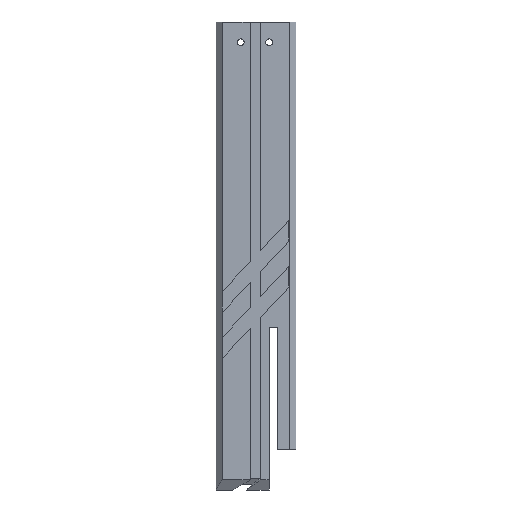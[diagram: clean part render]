
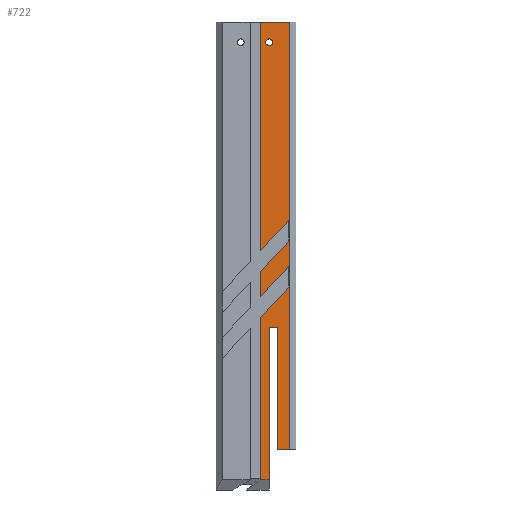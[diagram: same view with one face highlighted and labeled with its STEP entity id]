
A CAD part, top view. The second image highlights one B-rep face of the part: STEP entity #722.
In plain terms, the highlighted planar face has unit normal (0, 0, 1).
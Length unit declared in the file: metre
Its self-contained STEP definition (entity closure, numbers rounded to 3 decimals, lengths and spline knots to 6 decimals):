
#17=CIRCLE('',#778,0.0017);
#83=ORIENTED_EDGE('',*,*,#280,.F.);
#84=ORIENTED_EDGE('',*,*,#222,.T.);
#85=ORIENTED_EDGE('',*,*,#281,.T.);
#86=ORIENTED_EDGE('',*,*,#282,.T.);
#87=ORIENTED_EDGE('',*,*,#283,.F.);
#88=ORIENTED_EDGE('',*,*,#284,.T.);
#89=ORIENTED_EDGE('',*,*,#285,.T.);
#90=ORIENTED_EDGE('',*,*,#271,.F.);
#91=ORIENTED_EDGE('',*,*,#286,.F.);
#92=ORIENTED_EDGE('',*,*,#287,.F.);
#93=ORIENTED_EDGE('',*,*,#288,.F.);
#94=ORIENTED_EDGE('',*,*,#289,.F.);
#95=ORIENTED_EDGE('',*,*,#290,.F.);
#96=ORIENTED_EDGE('',*,*,#291,.F.);
#97=ORIENTED_EDGE('',*,*,#292,.F.);
#98=ORIENTED_EDGE('',*,*,#293,.F.);
#99=ORIENTED_EDGE('',*,*,#294,.F.);
#222=EDGE_CURVE('',#324,#325,#391,.T.);
#271=EDGE_CURVE('',#366,#367,#438,.T.);
#280=EDGE_CURVE('',#324,#373,#446,.T.);
#281=EDGE_CURVE('',#325,#374,#447,.T.);
#282=EDGE_CURVE('',#374,#375,#448,.T.);
#283=EDGE_CURVE('',#376,#375,#449,.T.);
#284=EDGE_CURVE('',#376,#377,#450,.T.);
#285=EDGE_CURVE('',#377,#367,#451,.T.);
#286=EDGE_CURVE('',#378,#366,#452,.T.);
#287=EDGE_CURVE('',#379,#378,#453,.T.);
#288=EDGE_CURVE('',#380,#379,#454,.T.);
#289=EDGE_CURVE('',#381,#380,#455,.T.);
#290=EDGE_CURVE('',#382,#381,#456,.T.);
#291=EDGE_CURVE('',#383,#382,#457,.T.);
#292=EDGE_CURVE('',#384,#383,#458,.T.);
#293=EDGE_CURVE('',#373,#384,#459,.T.);
#294=EDGE_CURVE('',#385,#385,#17,.T.);
#324=VERTEX_POINT('',#998);
#325=VERTEX_POINT('',#999);
#366=VERTEX_POINT('',#1094);
#367=VERTEX_POINT('',#1096);
#373=VERTEX_POINT('',#1113);
#374=VERTEX_POINT('',#1115);
#375=VERTEX_POINT('',#1117);
#376=VERTEX_POINT('',#1119);
#377=VERTEX_POINT('',#1121);
#378=VERTEX_POINT('',#1124);
#379=VERTEX_POINT('',#1126);
#380=VERTEX_POINT('',#1128);
#381=VERTEX_POINT('',#1130);
#382=VERTEX_POINT('',#1132);
#383=VERTEX_POINT('',#1134);
#384=VERTEX_POINT('',#1136);
#385=VERTEX_POINT('',#1139);
#391=LINE('',#997,#489);
#438=LINE('',#1095,#536);
#446=LINE('',#1112,#544);
#447=LINE('',#1114,#545);
#448=LINE('',#1116,#546);
#449=LINE('',#1118,#547);
#450=LINE('',#1120,#548);
#451=LINE('',#1122,#549);
#452=LINE('',#1123,#550);
#453=LINE('',#1125,#551);
#454=LINE('',#1127,#552);
#455=LINE('',#1129,#553);
#456=LINE('',#1131,#554);
#457=LINE('',#1133,#555);
#458=LINE('',#1135,#556);
#459=LINE('',#1137,#557);
#489=VECTOR('',#813,1.);
#536=VECTOR('',#876,1.);
#544=VECTOR('',#890,1.);
#545=VECTOR('',#891,1.);
#546=VECTOR('',#892,1.);
#547=VECTOR('',#893,1.);
#548=VECTOR('',#894,1.);
#549=VECTOR('',#895,1.);
#550=VECTOR('',#896,1.);
#551=VECTOR('',#897,1.);
#552=VECTOR('',#898,1.);
#553=VECTOR('',#899,1.);
#554=VECTOR('',#900,1.);
#555=VECTOR('',#901,1.);
#556=VECTOR('',#902,1.);
#557=VECTOR('',#903,1.);
#598=EDGE_LOOP('',(#83,#84,#85,#86,#87,#88,#89,#90,#91,#92,#93,#94,#95,
#96,#97,#98));
#599=EDGE_LOOP('',(#99));
#643=FACE_BOUND('',#598,.T.);
#644=FACE_BOUND('',#599,.T.);
#685=PLANE('',#777);
#722=ADVANCED_FACE('',(#643,#644),#685,.T.);
#777=AXIS2_PLACEMENT_3D('',#1111,#888,#889);
#778=AXIS2_PLACEMENT_3D('',#1138,#904,#905);
#813=DIRECTION('',(1.,0.,0.));
#876=DIRECTION('',(1.,0.,0.));
#888=DIRECTION('',(0.,0.,1.));
#889=DIRECTION('',(1.,0.,0.));
#890=DIRECTION('',(0.,1.,0.));
#891=DIRECTION('',(0.,1.,0.));
#892=DIRECTION('',(1.,0.,0.));
#893=DIRECTION('',(0.,1.,0.));
#894=DIRECTION('',(1.,0.,0.));
#895=DIRECTION('',(0.,1.,0.));
#896=DIRECTION('',(0.,1.,0.));
#897=DIRECTION('',(-0.683,-0.731,0.));
#898=DIRECTION('',(0.,1.,0.));
#899=DIRECTION('',(0.683,0.731,0.));
#900=DIRECTION('',(0.,1.,0.));
#901=DIRECTION('',(-0.683,-0.731,0.));
#902=DIRECTION('',(0.,1.,0.));
#903=DIRECTION('',(0.683,0.731,0.));
#904=DIRECTION('',(0.,0.,1.));
#905=DIRECTION('',(1.,0.,0.));
#997=CARTESIAN_POINT('',(0.258983,-0.454653,0.059));
#998=CARTESIAN_POINT('',(0.261142,-0.454653,0.059));
#999=CARTESIAN_POINT('',(0.265483,-0.454653,0.059));
#1094=CARTESIAN_POINT('',(0.261142,-0.229653,0.059));
#1095=CARTESIAN_POINT('',(0.258983,-0.229653,0.059));
#1096=CARTESIAN_POINT('',(0.275483,-0.229653,0.059));
#1111=CARTESIAN_POINT('',(0.258983,-0.344653,0.059));
#1112=CARTESIAN_POINT('',(0.261142,-0.414768,0.059));
#1113=CARTESIAN_POINT('',(0.261142,-0.374883,0.059));
#1114=CARTESIAN_POINT('',(0.265483,-0.409653,0.059));
#1115=CARTESIAN_POINT('',(0.265483,-0.379653,0.059));
#1116=CARTESIAN_POINT('',(0.267483,-0.379653,0.059));
#1117=CARTESIAN_POINT('',(0.269483,-0.379653,0.059));
#1118=CARTESIAN_POINT('',(0.269483,-0.409653,0.059));
#1119=CARTESIAN_POINT('',(0.269483,-0.439653,0.059));
#1120=CARTESIAN_POINT('',(0.273983,-0.439653,0.059));
#1121=CARTESIAN_POINT('',(0.275483,-0.439653,0.059));
#1122=CARTESIAN_POINT('',(0.275483,-0.344653,0.059));
#1123=CARTESIAN_POINT('',(0.261142,-0.285858,0.059));
#1124=CARTESIAN_POINT('',(0.261142,-0.342063,0.059));
#1125=CARTESIAN_POINT('',(0.268142,-0.334573,0.059));
#1126=CARTESIAN_POINT('',(0.275142,-0.327084,0.059));
#1127=CARTESIAN_POINT('',(0.275142,-0.33221,0.059));
#1128=CARTESIAN_POINT('',(0.275142,-0.337335,0.059));
#1129=CARTESIAN_POINT('',(0.268142,-0.344825,0.059));
#1130=CARTESIAN_POINT('',(0.261142,-0.352315,0.059));
#1131=CARTESIAN_POINT('',(0.261142,-0.358473,0.059));
#1132=CARTESIAN_POINT('',(0.261142,-0.364632,0.059));
#1133=CARTESIAN_POINT('',(0.268142,-0.357142,0.059));
#1134=CARTESIAN_POINT('',(0.275142,-0.349653,0.059));
#1135=CARTESIAN_POINT('',(0.275142,-0.354778,0.059));
#1136=CARTESIAN_POINT('',(0.275142,-0.359904,0.059));
#1137=CARTESIAN_POINT('',(0.268142,-0.367394,0.059));
#1138=CARTESIAN_POINT('',(0.265483,-0.239653,0.059));
#1139=CARTESIAN_POINT('',(0.267183,-0.239653,0.059));
